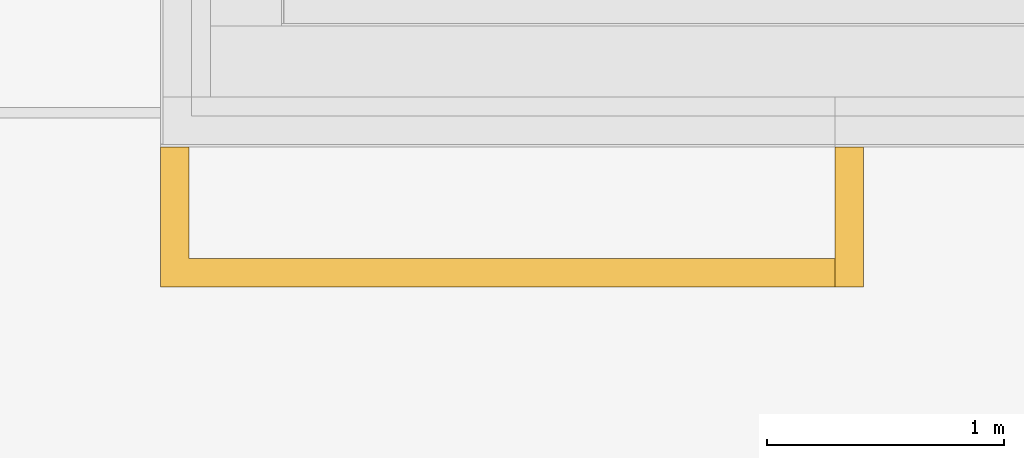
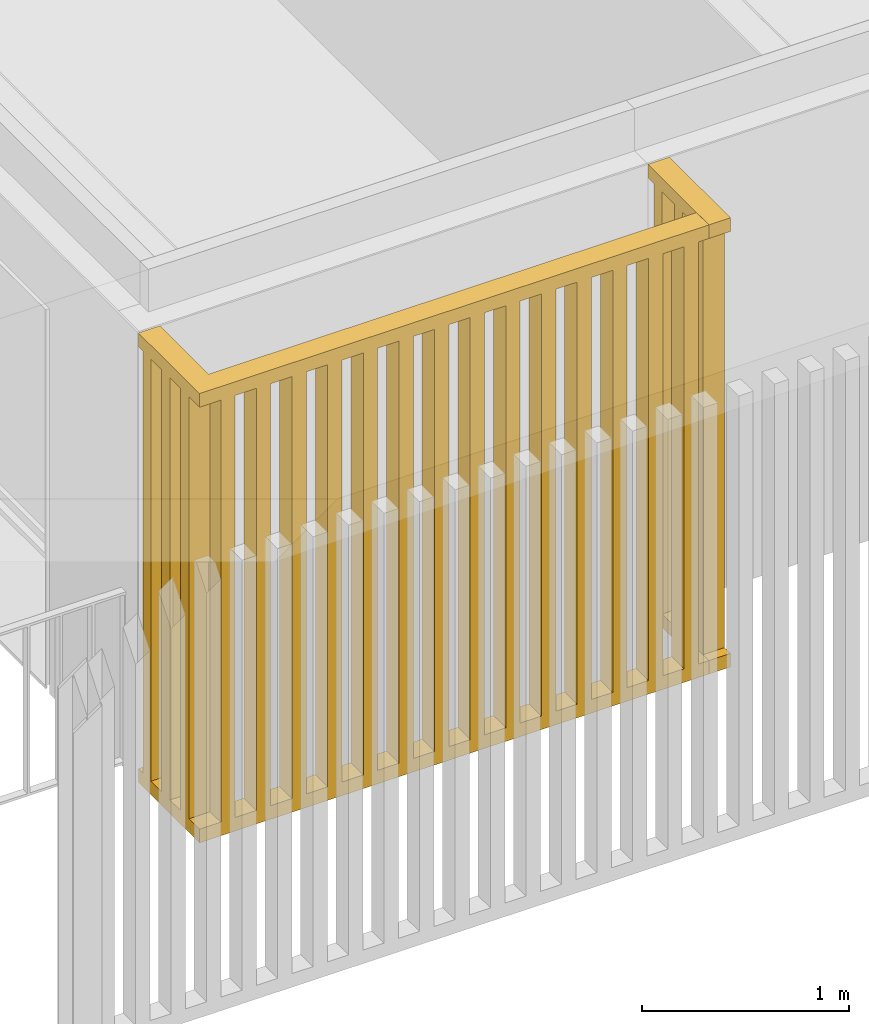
# One storey, part 23 of 34: 2 railings.
"""IFC4 building model written with IfcOpenShell, lengths in millimetres."""

from ifc_helpers import new_model, entity, si_unit, converted_unit, derived_unit, direction, frame, origin_with_axes, place, context, subcontext, project, spatial, polygons, material, constituent, constituent_set, type_object, element, save


model = new_model("IFC4")

# Units and contexts
model_context = context("Model", 3, precision=0.01, world=origin_with_axes(), true_north=direction((0.0, 1.0)))
body_context = subcontext(model_context, "Body", "Model", "MODEL_VIEW")
ifc_project = project(units=[si_unit("LENGTHUNIT", "METRE", prefix="MILLI"), si_unit("AREAUNIT", "SQUARE_METRE"), si_unit("VOLUMEUNIT", "CUBIC_METRE"), converted_unit("PLANEANGLEUNIT", "DEGREE", entity("IfcPlaneAngleMeasure", 0.0174532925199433), si_unit("PLANEANGLEUNIT", "RADIAN"), dimensions=[0, 0, 0, 0, 0, 0, 0]), converted_unit("TIMEUNIT", "Year", entity("IfcTimeMeasure", 31557600.0), si_unit("TIMEUNIT", "SECOND"), dimensions=[0, 0, 1, 0, 0, 0, 0]), si_unit("MASSUNIT", "GRAM", prefix="KILO"), si_unit("THERMODYNAMICTEMPERATUREUNIT", "DEGREE_CELSIUS"), si_unit("LUMINOUSINTENSITYUNIT", "LUMEN"), si_unit("ENERGYUNIT", "JOULE", prefix="MEGA"), derived_unit("THERMALCONDUCTANCEUNIT", [(si_unit("POWERUNIT", "WATT"), 1), (si_unit("LENGTHUNIT", "METRE"), -1), (si_unit("THERMODYNAMICTEMPERATUREUNIT", "KELVIN"), -1)]), derived_unit("SPECIFICHEATCAPACITYUNIT", [(si_unit("ENERGYUNIT", "JOULE"), 1), (si_unit("MASSUNIT", "GRAM", prefix="KILO"), -1), (si_unit("THERMODYNAMICTEMPERATUREUNIT", "KELVIN"), -1)]), derived_unit("MASSDENSITYUNIT", [(si_unit("MASSUNIT", "GRAM", prefix="KILO"), 1), (si_unit("VOLUMEUNIT", "CUBIC_METRE"), -1)])], contexts=[model_context])

# Site, building, storey
site_placement = place(None, origin_with_axes())
site = spatial("IfcSite", under=ifc_project, at=site_placement, Name="Gelände", CompositionType="ELEMENT")
building_placement = place(site_placement, origin_with_axes())
building = spatial("IfcBuilding", under=site, at=building_placement, Name="Gebäude", CompositionType="ELEMENT")
storey_placement = place(building_placement, frame((0.0, 0.0, 2900.0), z_axis=(0.0, 0.0, 1.0), x_axis=(1.0, 0.0, 0.0)))
storey = spatial("IfcBuildingStorey", under=building, at=storey_placement, Name="1.OG", CompositionType="ELEMENT", Elevation=2900.0)

# Railings
ifc_material = material(Name="Vollholzwerkstoff")
ifc_constituent_1 = constituent(ifc_material, Name="Vollholzwerkstoff 1")
ifc_constituent_2 = constituent(ifc_material, Name="Vollholzwerkstoff 2")
ifc_constituent_3 = constituent(ifc_material, Name="Vollholzwerkstoff 3")
ifc_constituent_4 = constituent(ifc_material, Name="Vollholzwerkstoff 4")
ifc_constituent_5 = constituent(ifc_material, Name="Vollholzwerkstoff 5")
ifc_constituent_set_1 = constituent_set(constituents=[ifc_constituent_1, ifc_constituent_2, ifc_constituent_3, ifc_constituent_4, ifc_constituent_5])
railing_type = type_object("IfcRailingType", Name="Geländerart", PredefinedType="NOTDEFINED")
railing_1_placement = place(storey_placement, frame((-4168.24660283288, 22929.93923874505, 40.00000000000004), z_axis=(0.0, 0.0, 1.0), x_axis=(1.0, 0.0, 0.0)))
element("IfcRailing", 1, at=railing_1_placement, inside=storey, type_object=railing_type, material=ifc_constituent_set_1, Name="Geländer-001", PredefinedType="NOTDEFINED", context=body_context, shape_type="Tessellation", body=[
    polygons([(-59.99999999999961, 17.65750202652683, 2609.999999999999), (-59.99999999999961, 17.65750202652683, 2529.999999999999), (-59.99999999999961, -572.3424979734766, 2529.999999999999), (-59.99999999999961, -572.3424979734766, 2609.999999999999), (59.99999999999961, 17.65750202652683, 2609.999999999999), (59.99999999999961, 17.65750202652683, 2529.999999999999), (59.99999999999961, -572.3424979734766, 2529.999999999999), (59.99999999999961, -572.3424979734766, 2609.999999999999)], [[[1, 2, 3, 4]], [[1, 5, 6, 2]], [[2, 6, 7, 3]], [[4, 3, 7, 8]], [[5, 1, 4, 8]], [[6, 5, 8, 7]]], closed=True),
    polygons([(-59.99999999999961, 17.65750202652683, 40.00000000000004), (-59.99999999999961, 17.65750202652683, -40.00000000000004), (-59.99999999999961, -572.3424979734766, -40.00000000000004), (-59.99999999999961, -572.3424979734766, 40.00000000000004), (59.99999999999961, 17.65750202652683, 40.00000000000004), (59.99999999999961, 17.65750202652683, -40.00000000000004), (59.99999999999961, -572.3424979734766, -40.00000000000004), (59.99999999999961, -572.3424979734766, 40.00000000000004)], [[[1, 2, 3, 4]], [[1, 5, 6, 2]], [[2, 6, 7, 3]], [[4, 3, 7, 8]], [[5, 1, 4, 8]], [[6, 5, 8, 7]]], closed=True),
    polygons([(-59.99999999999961, -119.8424979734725, 40.00000000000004), (59.99999999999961, -119.8424979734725, 40.00000000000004), (60.0000000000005, -119.8424979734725, 2529.999999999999), (-59.99999999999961, -119.8424979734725, 2529.999999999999), (-59.99999999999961, -39.84249797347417, 40.00000000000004), (59.99999999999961, -39.84249797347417, 40.00000000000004), (60.0000000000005, -39.84249797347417, 2529.999999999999), (-59.99999999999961, -39.84249797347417, 2529.999999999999)], [[[1, 2, 3, 4]], [[1, 5, 6, 2]], [[2, 6, 7, 3]], [[4, 3, 7, 8]], [[5, 1, 4, 8]], [[6, 5, 8, 7]]], closed=True),
    polygons([(-59.99999999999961, -317.342497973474, 40.00000000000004), (59.99999999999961, -317.342497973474, 40.00000000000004), (60.0000000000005, -317.342497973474, 2529.999999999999), (-59.99999999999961, -317.342497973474, 2529.999999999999), (-59.99999999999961, -237.3424979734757, 40.00000000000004), (59.99999999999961, -237.3424979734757, 40.00000000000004), (60.0000000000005, -237.3424979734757, 2529.999999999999), (-59.99999999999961, -237.3424979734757, 2529.999999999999)], [[[1, 2, 3, 4]], [[1, 5, 6, 2]], [[2, 6, 7, 3]], [[4, 3, 7, 8]], [[5, 1, 4, 8]], [[6, 5, 8, 7]]], closed=True),
    polygons([(-59.99999999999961, -514.8424979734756, 40.00000000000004), (59.99999999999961, -514.8424979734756, 40.00000000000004), (60.0000000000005, -514.8424979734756, 2529.999999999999), (-59.99999999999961, -514.8424979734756, 2529.999999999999), (-59.99999999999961, -434.8424979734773, 40.00000000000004), (59.99999999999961, -434.8424979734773, 40.00000000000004), (60.0000000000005, -434.8424979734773, 2529.999999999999), (-59.99999999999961, -434.8424979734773, 2529.999999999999)], [[[1, 2, 3, 4]], [[1, 5, 6, 2]], [[2, 6, 7, 3]], [[4, 3, 7, 8]], [[5, 1, 4, 8]], [[6, 5, 8, 7]]], closed=True),
])
ifc_constituent_6 = constituent(ifc_material, Name="Vollholzwerkstoff 1")
ifc_constituent_7 = constituent(ifc_material, Name="Vollholzwerkstoff 2")
ifc_constituent_8 = constituent(ifc_material, Name="Vollholzwerkstoff 3")
ifc_constituent_9 = constituent(ifc_material, Name="Vollholzwerkstoff 4")
ifc_constituent_10 = constituent(ifc_material, Name="Vollholzwerkstoff 5")
ifc_constituent_11 = constituent(ifc_material, Name="Vollholzwerkstoff 6")
ifc_constituent_12 = constituent(ifc_material, Name="Vollholzwerkstoff 7")
ifc_constituent_13 = constituent(ifc_material, Name="Vollholzwerkstoff 8")
ifc_constituent_14 = constituent(ifc_material, Name="Vollholzwerkstoff 9")
ifc_constituent_15 = constituent(ifc_material, Name="Vollholzwerkstoff 10")
ifc_constituent_16 = constituent(ifc_material, Name="Vollholzwerkstoff 11")
ifc_constituent_17 = constituent(ifc_material, Name="Vollholzwerkstoff 12")
ifc_constituent_18 = constituent(ifc_material, Name="Vollholzwerkstoff 13")
ifc_constituent_19 = constituent(ifc_material, Name="Vollholzwerkstoff 14")
ifc_constituent_20 = constituent(ifc_material, Name="Vollholzwerkstoff 15")
ifc_constituent_21 = constituent(ifc_material, Name="Vollholzwerkstoff 16")
ifc_constituent_22 = constituent(ifc_material, Name="Vollholzwerkstoff 17")
ifc_constituent_23 = constituent(ifc_material, Name="Vollholzwerkstoff 18")
ifc_constituent_24 = constituent(ifc_material, Name="Vollholzwerkstoff 19")
ifc_constituent_25 = constituent(ifc_material, Name="Vollholzwerkstoff 20")
ifc_constituent_26 = constituent(ifc_material, Name="Vollholzwerkstoff 21")
ifc_constituent_set_2 = constituent_set(constituents=[ifc_constituent_6, ifc_constituent_7, ifc_constituent_8, ifc_constituent_9, ifc_constituent_10, ifc_constituent_11, ifc_constituent_12, ifc_constituent_13, ifc_constituent_14, ifc_constituent_15, ifc_constituent_16, ifc_constituent_17, ifc_constituent_18, ifc_constituent_19, ifc_constituent_20, ifc_constituent_21, ifc_constituent_22, ifc_constituent_23, ifc_constituent_24, ifc_constituent_25, ifc_constituent_26])
railing_2_placement = place(storey_placement, frame((-9118.106064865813, 22017.59673908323, 40.00000000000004), z_axis=(0.0, 0.0, 1.0), x_axis=(1.0, 0.0, 0.0)))
element("IfcRailing", 2, at=railing_2_placement, inside=storey, type_object=railing_type, material=ifc_constituent_set_2, Name="Geländer-001", PredefinedType="NOTDEFINED", context=body_context, shape_type="Tessellation", body=[
    polygons([(2046.865966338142, 930.0000016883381, 2610.0), (2046.865966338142, 930.0000016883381, 2530.0), (2046.865966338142, 340.0000000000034, 2530.0), (2046.865966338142, 340.0000000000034, 2610.0), (2166.865966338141, 930.0000016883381, 2610.0), (2166.865966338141, 930.0000016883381, 2530.0), (2166.865966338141, 460.0000000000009, 2530.0), (2166.865966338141, 460.0000000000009, 2610.0)], [[[1, 2, 3, 4]], [[1, 5, 6, 2]], [[2, 6, 7, 3]], [[4, 3, 7, 8]], [[5, 1, 4, 8]], [[6, 5, 8, 7]]], closed=True),
    polygons([(2046.865966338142, 930.0000016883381, 40.00000000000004), (2046.865966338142, 930.0000016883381, -40.00000000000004), (2046.865966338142, 340.0000000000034, -40.00000000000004), (2046.865966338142, 340.0000000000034, 40.00000000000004), (2166.865966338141, 930.0000016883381, 40.00000000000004), (2166.865966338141, 930.0000016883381, -40.00000000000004), (2166.865966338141, 460.0000000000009, -40.00000000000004), (2166.865966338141, 460.0000000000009, 40.00000000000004)], [[[1, 2, 3, 4]], [[1, 5, 6, 2]], [[2, 6, 7, 3]], [[4, 3, 7, 8]], [[5, 1, 4, 8]], [[6, 5, 8, 7]]], closed=True),
    polygons([(2166.865966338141, 807.5000012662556, 40.00000000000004), (2166.865966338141, 807.5000012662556, 2529.999999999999), (2046.865966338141, 807.5000012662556, 2529.999999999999), (2046.865966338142, 807.5000012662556, 40.00000000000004), (2166.865966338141, 887.500001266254, 40.00000000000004), (2166.865966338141, 887.500001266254, 2529.999999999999), (2046.865966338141, 887.500001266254, 2529.999999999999), (2046.865966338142, 887.500001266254, 40.00000000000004)], [[[1, 2, 3, 4]], [[5, 6, 2, 1]], [[2, 6, 7, 3]], [[4, 3, 7, 8]], [[1, 4, 8, 5]], [[8, 7, 6, 5]]], closed=True),
    polygons([(2166.865966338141, 625.0000008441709, 40.00000000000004), (2166.865966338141, 625.0000008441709, 2529.999999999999), (2046.865966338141, 625.0000008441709, 2529.999999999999), (2046.865966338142, 625.0000008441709, 40.00000000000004), (2166.865966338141, 705.0000008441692, 40.00000000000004), (2166.865966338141, 705.0000008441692, 2529.999999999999), (2046.865966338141, 705.0000008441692, 2529.999999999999), (2046.865966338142, 705.0000008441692, 40.00000000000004)], [[[1, 2, 3, 4]], [[5, 6, 2, 1]], [[2, 6, 7, 3]], [[4, 3, 7, 8]], [[1, 4, 8, 5]], [[8, 7, 6, 5]]], closed=True),
    polygons([(2166.865966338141, 442.5000004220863, 40.00000000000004), (2166.865966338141, 442.5000004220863, 2529.999999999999), (2046.865966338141, 442.5000004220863, 2529.999999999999), (2046.865966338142, 442.5000004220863, 40.00000000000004), (2166.865966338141, 522.5000004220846, 40.00000000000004), (2166.865966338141, 522.5000004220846, 2529.999999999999), (2046.865966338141, 522.5000004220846, 2529.999999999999), (2046.865966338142, 522.5000004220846, 40.00000000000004)], [[[1, 2, 3, 4]], [[5, 6, 2, 1]], [[2, 6, 7, 3]], [[4, 3, 7, 8]], [[1, 4, 8, 5]], [[8, 7, 6, 5]]], closed=True),
    polygons([(2046.865966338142, 340.0000000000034, 2609.999999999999), (2046.865966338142, 340.0000000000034, 2529.999999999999), (4889.859462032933, 340.0000000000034, 2529.999999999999), (4889.859462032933, 340.0000000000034, 2609.999999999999), (2166.865966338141, 460.0000000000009, 2609.999999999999), (2166.865966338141, 460.0000000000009, 2529.999999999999), (4889.859462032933, 460.0000000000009, 2529.999999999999), (4889.859462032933, 460.0000000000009, 2609.999999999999)], [[[1, 2, 3, 4]], [[1, 5, 6, 2]], [[2, 6, 7, 3]], [[4, 3, 7, 8]], [[5, 1, 4, 8]], [[6, 5, 8, 7]]], closed=True),
    polygons([(2046.865966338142, 340.0000000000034, 40.00000000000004), (2046.865966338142, 340.0000000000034, -40.00000000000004), (4889.859462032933, 340.0000000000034, -40.00000000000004), (4889.859462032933, 340.0000000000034, 40.00000000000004), (2166.865966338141, 460.0000000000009, 40.00000000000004), (2166.865966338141, 460.0000000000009, -40.00000000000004), (4889.859462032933, 460.0000000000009, -40.00000000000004), (4889.859462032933, 460.0000000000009, 40.00000000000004)], [[[1, 2, 3, 4]], [[1, 5, 6, 2]], [[2, 6, 7, 3]], [[4, 3, 7, 8]], [[5, 1, 4, 8]], [[6, 5, 8, 7]]], closed=True),
    polygons([(2245.732199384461, 460.0000000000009, 40.00000000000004), (2245.732199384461, 460.0000000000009, 2529.999999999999), (2245.732199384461, 340.0000000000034, 2529.999999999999), (2245.732199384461, 340.0000000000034, 40.00000000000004), (2165.732199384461, 460.0000000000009, 40.00000000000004), (2165.732199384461, 460.0000000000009, 2529.999999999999), (2165.732199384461, 340.0000000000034, 2529.999999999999), (2165.732199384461, 340.0000000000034, 40.00000000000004)], [[[1, 2, 3, 4]], [[5, 6, 2, 1]], [[2, 6, 7, 3]], [[4, 3, 7, 8]], [[1, 4, 8, 5]], [[8, 7, 6, 5]]], closed=True),
    polygons([(2444.598432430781, 460.0000000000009, 40.00000000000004), (2444.598432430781, 460.0000000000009, 2529.999999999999), (2444.598432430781, 340.0000000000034, 2529.999999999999), (2444.598432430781, 340.0000000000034, 40.00000000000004), (2364.598432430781, 460.0000000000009, 40.00000000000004), (2364.598432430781, 460.0000000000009, 2529.999999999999), (2364.598432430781, 340.0000000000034, 2529.999999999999), (2364.598432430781, 340.0000000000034, 40.00000000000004)], [[[1, 2, 3, 4]], [[5, 6, 2, 1]], [[2, 6, 7, 3]], [[4, 3, 7, 8]], [[1, 4, 8, 5]], [[8, 7, 6, 5]]], closed=True),
    polygons([(2643.4646654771, 460.0000000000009, 40.00000000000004), (2643.4646654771, 460.0000000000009, 2529.999999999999), (2643.4646654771, 340.0000000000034, 2529.999999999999), (2643.4646654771, 340.0000000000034, 40.00000000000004), (2563.4646654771, 460.0000000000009, 40.00000000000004), (2563.4646654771, 460.0000000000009, 2529.999999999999), (2563.4646654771, 340.0000000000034, 2529.999999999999), (2563.4646654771, 340.0000000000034, 40.00000000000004)], [[[1, 2, 3, 4]], [[5, 6, 2, 1]], [[2, 6, 7, 3]], [[4, 3, 7, 8]], [[1, 4, 8, 5]], [[8, 7, 6, 5]]], closed=True),
    polygons([(2842.33089852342, 460.0000000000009, 40.00000000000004), (2842.33089852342, 460.0000000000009, 2529.999999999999), (2842.33089852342, 340.0000000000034, 2529.999999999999), (2842.33089852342, 340.0000000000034, 40.00000000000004), (2762.33089852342, 460.0000000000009, 40.00000000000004), (2762.33089852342, 460.0000000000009, 2529.999999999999), (2762.33089852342, 340.0000000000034, 2529.999999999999), (2762.33089852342, 340.0000000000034, 40.00000000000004)], [[[1, 2, 3, 4]], [[5, 6, 2, 1]], [[2, 6, 7, 3]], [[4, 3, 7, 8]], [[1, 4, 8, 5]], [[8, 7, 6, 5]]], closed=True),
    polygons([(3041.19713156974, 460.0000000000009, 40.00000000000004), (3041.19713156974, 460.0000000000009, 2529.999999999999), (3041.19713156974, 340.0000000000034, 2529.999999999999), (3041.19713156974, 340.0000000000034, 40.00000000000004), (2961.197131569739, 460.0000000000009, 40.00000000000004), (2961.197131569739, 460.0000000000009, 2529.999999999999), (2961.197131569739, 340.0000000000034, 2529.999999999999), (2961.197131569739, 340.0000000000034, 40.00000000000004)], [[[1, 2, 3, 4]], [[5, 6, 2, 1]], [[2, 6, 7, 3]], [[4, 3, 7, 8]], [[1, 4, 8, 5]], [[8, 7, 6, 5]]], closed=True),
    polygons([(3240.063364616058, 460.0000000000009, 40.00000000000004), (3240.063364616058, 460.0000000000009, 2529.999999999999), (3240.063364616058, 340.0000000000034, 2529.999999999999), (3240.063364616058, 340.0000000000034, 40.00000000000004), (3160.063364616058, 460.0000000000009, 40.00000000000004), (3160.063364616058, 460.0000000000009, 2529.999999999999), (3160.063364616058, 340.0000000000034, 2529.999999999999), (3160.063364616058, 340.0000000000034, 40.00000000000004)], [[[1, 2, 3, 4]], [[5, 6, 2, 1]], [[2, 6, 7, 3]], [[4, 3, 7, 8]], [[1, 4, 8, 5]], [[8, 7, 6, 5]]], closed=True),
    polygons([(3438.929597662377, 460.0000000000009, 40.00000000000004), (3438.929597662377, 460.0000000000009, 2529.999999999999), (3438.929597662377, 340.0000000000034, 2529.999999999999), (3438.929597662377, 340.0000000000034, 40.00000000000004), (3358.929597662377, 460.0000000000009, 40.00000000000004), (3358.929597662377, 460.0000000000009, 2529.999999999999), (3358.929597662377, 340.0000000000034, 2529.999999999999), (3358.929597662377, 340.0000000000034, 40.00000000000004)], [[[1, 2, 3, 4]], [[5, 6, 2, 1]], [[2, 6, 7, 3]], [[4, 3, 7, 8]], [[1, 4, 8, 5]], [[8, 7, 6, 5]]], closed=True),
    polygons([(3637.795830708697, 460.0000000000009, 40.00000000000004), (3637.795830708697, 460.0000000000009, 2529.999999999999), (3637.795830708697, 340.0000000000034, 2529.999999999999), (3637.795830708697, 340.0000000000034, 40.00000000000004), (3557.795830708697, 460.0000000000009, 40.00000000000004), (3557.795830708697, 460.0000000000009, 2529.999999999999), (3557.795830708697, 340.0000000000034, 2529.999999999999), (3557.795830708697, 340.0000000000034, 40.00000000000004)], [[[1, 2, 3, 4]], [[5, 6, 2, 1]], [[2, 6, 7, 3]], [[4, 3, 7, 8]], [[1, 4, 8, 5]], [[8, 7, 6, 5]]], closed=True),
    polygons([(3836.662063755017, 460.0000000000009, 40.00000000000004), (3836.662063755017, 460.0000000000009, 2529.999999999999), (3836.662063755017, 340.0000000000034, 2529.999999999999), (3836.662063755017, 340.0000000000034, 40.00000000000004), (3756.662063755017, 460.0000000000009, 40.00000000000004), (3756.662063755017, 460.0000000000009, 2529.999999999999), (3756.662063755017, 340.0000000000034, 2529.999999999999), (3756.662063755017, 340.0000000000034, 40.00000000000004)], [[[1, 2, 3, 4]], [[5, 6, 2, 1]], [[2, 6, 7, 3]], [[4, 3, 7, 8]], [[1, 4, 8, 5]], [[8, 7, 6, 5]]], closed=True),
    polygons([(4035.528296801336, 460.0000000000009, 40.00000000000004), (4035.528296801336, 460.0000000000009, 2529.999999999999), (4035.528296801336, 340.0000000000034, 2529.999999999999), (4035.528296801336, 340.0000000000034, 40.00000000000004), (3955.528296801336, 460.0000000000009, 40.00000000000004), (3955.528296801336, 460.0000000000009, 2529.999999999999), (3955.528296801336, 340.0000000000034, 2529.999999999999), (3955.528296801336, 340.0000000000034, 40.00000000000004)], [[[1, 2, 3, 4]], [[5, 6, 2, 1]], [[2, 6, 7, 3]], [[4, 3, 7, 8]], [[1, 4, 8, 5]], [[8, 7, 6, 5]]], closed=True),
    polygons([(4234.394529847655, 460.0000000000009, 40.00000000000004), (4234.394529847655, 460.0000000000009, 2529.999999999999), (4234.394529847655, 340.0000000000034, 2529.999999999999), (4234.394529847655, 340.0000000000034, 40.00000000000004), (4154.394529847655, 460.0000000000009, 40.00000000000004), (4154.394529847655, 460.0000000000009, 2529.999999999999), (4154.394529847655, 340.0000000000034, 2529.999999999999), (4154.394529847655, 340.0000000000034, 40.00000000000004)], [[[1, 2, 3, 4]], [[5, 6, 2, 1]], [[2, 6, 7, 3]], [[4, 3, 7, 8]], [[1, 4, 8, 5]], [[8, 7, 6, 5]]], closed=True),
    polygons([(4433.260762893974, 460.0000000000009, 40.00000000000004), (4433.260762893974, 460.0000000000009, 2529.999999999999), (4433.260762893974, 340.0000000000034, 2529.999999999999), (4433.260762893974, 340.0000000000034, 40.00000000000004), (4353.260762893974, 460.0000000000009, 40.00000000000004), (4353.260762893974, 460.0000000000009, 2529.999999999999), (4353.260762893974, 340.0000000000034, 2529.999999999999), (4353.260762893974, 340.0000000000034, 40.00000000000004)], [[[1, 2, 3, 4]], [[5, 6, 2, 1]], [[2, 6, 7, 3]], [[4, 3, 7, 8]], [[1, 4, 8, 5]], [[8, 7, 6, 5]]], closed=True),
    polygons([(4632.126995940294, 460.0000000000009, 40.00000000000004), (4632.126995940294, 460.0000000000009, 2529.999999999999), (4632.126995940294, 340.0000000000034, 2529.999999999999), (4632.126995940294, 340.0000000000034, 40.00000000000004), (4552.126995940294, 460.0000000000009, 40.00000000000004), (4552.126995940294, 460.0000000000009, 2529.999999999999), (4552.126995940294, 340.0000000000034, 2529.999999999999), (4552.126995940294, 340.0000000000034, 40.00000000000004)], [[[1, 2, 3, 4]], [[5, 6, 2, 1]], [[2, 6, 7, 3]], [[4, 3, 7, 8]], [[1, 4, 8, 5]], [[8, 7, 6, 5]]], closed=True),
    polygons([(4830.993228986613, 460.0000000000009, 40.00000000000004), (4830.993228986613, 460.0000000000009, 2529.999999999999), (4830.993228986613, 340.0000000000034, 2529.999999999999), (4830.993228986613, 340.0000000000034, 40.00000000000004), (4750.993228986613, 460.0000000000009, 40.00000000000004), (4750.993228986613, 460.0000000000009, 2529.999999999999), (4750.993228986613, 340.0000000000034, 2529.999999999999), (4750.993228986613, 340.0000000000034, 40.00000000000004)], [[[1, 2, 3, 4]], [[5, 6, 2, 1]], [[2, 6, 7, 3]], [[4, 3, 7, 8]], [[1, 4, 8, 5]], [[8, 7, 6, 5]]], closed=True),
])

save(model, "model.ifc")
